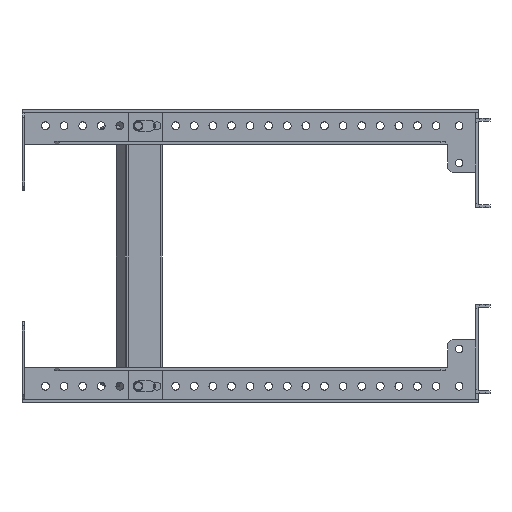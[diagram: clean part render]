
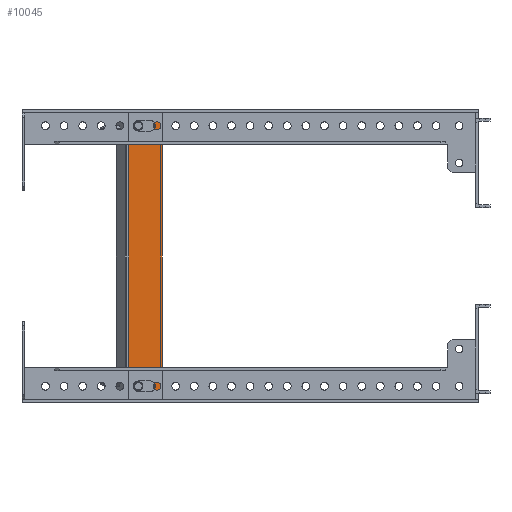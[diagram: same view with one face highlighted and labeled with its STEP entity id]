
A CAD part, front view. The second image highlights one B-rep face of the part: STEP entity #10045.
In plain terms, the highlighted planar face has unit normal (0, -1, 0).
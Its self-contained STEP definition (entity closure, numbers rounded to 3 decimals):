
#126 = AXIS2_PLACEMENT_3D ( 'NONE', #10724, #23433, #22801 ) ;
#191 = EDGE_CURVE ( 'NONE', #1956, #8687, #25291, .T. ) ;
#308 = DIRECTION ( 'NONE',  ( -1., 0., 0. ) ) ;
#430 = CARTESIAN_POINT ( 'NONE',  ( 1112.27, -253.815, 84. ) ) ;
#501 = ORIENTED_EDGE ( 'NONE', *, *, #26538, .F. ) ;
#509 = CARTESIAN_POINT ( 'NONE',  ( 1108.77, -253.815, -87.5 ) ) ;
#674 = CARTESIAN_POINT ( 'NONE',  ( 1128.272, -253.815, -97.5 ) ) ;
#1179 = VERTEX_POINT ( 'NONE', #17156 ) ;
#1416 = CARTESIAN_POINT ( 'NONE',  ( 1120.27, -253.815, -87.5 ) ) ;
#1956 = VERTEX_POINT ( 'NONE', #430 ) ;
#2004 = LINE ( 'NONE', #10616, #7252 ) ;
#2131 = EDGE_CURVE ( 'NONE', #19050, #3301, #4149, .T. ) ;
#2241 = AXIS2_PLACEMENT_3D ( 'NONE', #24133, #22053, #26634 ) ;
#2380 = VERTEX_POINT ( 'NONE', #674 ) ;
#2545 = VECTOR ( 'NONE', #5080, 1000. ) ;
#3301 = VERTEX_POINT ( 'NONE', #3691 ) ;
#3564 = ORIENTED_EDGE ( 'NONE', *, *, #24913, .F. ) ;
#3590 = DIRECTION ( 'NONE',  ( -1., 0., 0. ) ) ;
#3602 = CARTESIAN_POINT ( 'NONE',  ( 1128.272, -253.815, 97.5 ) ) ;
#3691 = CARTESIAN_POINT ( 'NONE',  ( 1112.27, -253.815, -91. ) ) ;
#3921 = VECTOR ( 'NONE', #14452, 1000. ) ;
#4098 = VERTEX_POINT ( 'NONE', #14169 ) ;
#4147 = ORIENTED_EDGE ( 'NONE', *, *, #18055, .F. ) ;
#4149 = CIRCLE ( 'NONE', #24039, 3.5 ) ;
#4202 = CARTESIAN_POINT ( 'NONE',  ( 1112.27, -253.815, 87.5 ) ) ;
#4675 = DIRECTION ( 'NONE',  ( 0., 0., 1. ) ) ;
#4949 = CARTESIAN_POINT ( 'NONE',  ( 1112.27, -253.815, 87.5 ) ) ;
#5080 = DIRECTION ( 'NONE',  ( 1., 0., 0. ) ) ;
#5239 = ORIENTED_EDGE ( 'NONE', *, *, #11927, .F. ) ;
#5491 = VERTEX_POINT ( 'NONE', #3602 ) ;
#5682 = CARTESIAN_POINT ( 'NONE',  ( 1112.27, -253.815, -84. ) ) ;
#6001 = CARTESIAN_POINT ( 'NONE',  ( 1105.77, -253.815, -97.5 ) ) ;
#6028 = CARTESIAN_POINT ( 'NONE',  ( 1112.27, -253.815, 84. ) ) ;
#6580 = LINE ( 'NONE', #19713, #8036 ) ;
#6707 = AXIS2_PLACEMENT_3D ( 'NONE', #4949, #13682, #20186 ) ;
#6709 = VERTEX_POINT ( 'NONE', #8030 ) ;
#6815 = EDGE_CURVE ( 'NONE', #21519, #6709, #13175, .T. ) ;
#6932 = CARTESIAN_POINT ( 'NONE',  ( 1120.27, -253.815, 91. ) ) ;
#6973 = EDGE_CURVE ( 'NONE', #8729, #21519, #15595, .T. ) ;
#7168 = ORIENTED_EDGE ( 'NONE', *, *, #17169, .F. ) ;
#7252 = VECTOR ( 'NONE', #12417, 1000. ) ;
#7660 = FACE_OUTER_BOUND ( 'NONE', #11004, .T. ) ;
#7667 = LINE ( 'NONE', #6001, #3921 ) ;
#7672 = EDGE_CURVE ( 'NONE', #8687, #8729, #9697, .T. ) ;
#7966 = LINE ( 'NONE', #6028, #20204 ) ;
#8030 = CARTESIAN_POINT ( 'NONE',  ( 1120.27, -253.815, 84. ) ) ;
#8036 = VECTOR ( 'NONE', #24004, 1000. ) ;
#8687 = VERTEX_POINT ( 'NONE', #26811 ) ;
#8729 = VERTEX_POINT ( 'NONE', #8764 ) ;
#8764 = CARTESIAN_POINT ( 'NONE',  ( 1112.27, -253.815, 91. ) ) ;
#9697 = CIRCLE ( 'NONE', #14979, 3.5 ) ;
#10041 = CARTESIAN_POINT ( 'NONE',  ( 1105.77, -253.815, -97.5 ) ) ;
#10045 = ADVANCED_FACE ( 'NONE', ( #7660, #17894, #13619 ), #20113, .F. ) ;
#10375 = CARTESIAN_POINT ( 'NONE',  ( 1112.27, -253.815, -84. ) ) ;
#10616 = CARTESIAN_POINT ( 'NONE',  ( 1150.113, -253.815, -97.5 ) ) ;
#10724 = CARTESIAN_POINT ( 'NONE',  ( 1112.27, -253.815, -87.5 ) ) ;
#10848 = DIRECTION ( 'NONE',  ( 0., 1., 0. ) ) ;
#11004 = EDGE_LOOP ( 'NONE', ( #4147, #7168, #27003, #22358 ) ) ;
#11174 = VERTEX_POINT ( 'NONE', #5682 ) ;
#11263 = ORIENTED_EDGE ( 'NONE', *, *, #6815, .T. ) ;
#11450 = VECTOR ( 'NONE', #4675, 1000. ) ;
#11927 = EDGE_CURVE ( 'NONE', #22896, #4098, #21408, .T. ) ;
#12225 = CARTESIAN_POINT ( 'NONE',  ( 1120.27, -253.815, -91. ) ) ;
#12367 = VECTOR ( 'NONE', #15315, 1000. ) ;
#12417 = DIRECTION ( 'NONE',  ( -1., 0., 0. ) ) ;
#12982 = ORIENTED_EDGE ( 'NONE', *, *, #191, .T. ) ;
#13024 = AXIS2_PLACEMENT_3D ( 'NONE', #1416, #27150, #22857 ) ;
#13175 = CIRCLE ( 'NONE', #13622, 3.5 ) ;
#13619 = FACE_BOUND ( 'NONE', #27129, .T. ) ;
#13622 = AXIS2_PLACEMENT_3D ( 'NONE', #14272, #22699, #26549 ) ;
#13682 = DIRECTION ( 'NONE',  ( 0., 1., 0. ) ) ;
#13837 = EDGE_CURVE ( 'NONE', #2380, #5491, #23914, .T. ) ;
#14169 = CARTESIAN_POINT ( 'NONE',  ( 1120.27, -253.815, -84. ) ) ;
#14272 = CARTESIAN_POINT ( 'NONE',  ( 1120.27, -253.815, 87.5 ) ) ;
#14452 = DIRECTION ( 'NONE',  ( 0., 0., 1. ) ) ;
#14979 = AXIS2_PLACEMENT_3D ( 'NONE', #4202, #10848, #308 ) ;
#15178 = CIRCLE ( 'NONE', #126, 3.5 ) ;
#15315 = DIRECTION ( 'NONE',  ( 1., 0., 0. ) ) ;
#15595 = LINE ( 'NONE', #24038, #2545 ) ;
#15729 = EDGE_CURVE ( 'NONE', #6709, #1956, #7966, .T. ) ;
#16222 = DIRECTION ( 'NONE',  ( -1., 0., 0. ) ) ;
#17156 = CARTESIAN_POINT ( 'NONE',  ( 1105.77, -253.815, 97.5 ) ) ;
#17169 = EDGE_CURVE ( 'NONE', #26250, #1179, #7667, .T. ) ;
#17543 = CARTESIAN_POINT ( 'NONE',  ( 1128.272, -253.815, -100.859 ) ) ;
#17894 = FACE_BOUND ( 'NONE', #22127, .T. ) ;
#18055 = EDGE_CURVE ( 'NONE', #1179, #5491, #21796, .T. ) ;
#18435 = CARTESIAN_POINT ( 'NONE',  ( 1112.27, -253.815, -87.5 ) ) ;
#18696 = DIRECTION ( 'NONE',  ( 0., -1., 0. ) ) ;
#18956 = ORIENTED_EDGE ( 'NONE', *, *, #22169, .F. ) ;
#19050 = VERTEX_POINT ( 'NONE', #509 ) ;
#19713 = CARTESIAN_POINT ( 'NONE',  ( 1112.27, -253.815, -91. ) ) ;
#20049 = ORIENTED_EDGE ( 'NONE', *, *, #2131, .F. ) ;
#20113 = PLANE ( 'NONE',  #2241 ) ;
#20186 = DIRECTION ( 'NONE',  ( -1., 0., 0. ) ) ;
#20204 = VECTOR ( 'NONE', #22909, 1000. ) ;
#21046 = VECTOR ( 'NONE', #3590, 1000. ) ;
#21408 = CIRCLE ( 'NONE', #13024, 3.5 ) ;
#21519 = VERTEX_POINT ( 'NONE', #6932 ) ;
#21796 = LINE ( 'NONE', #26246, #12367 ) ;
#22053 = DIRECTION ( 'NONE',  ( 0., 1., 0. ) ) ;
#22127 = EDGE_LOOP ( 'NONE', ( #18956, #20049, #3564, #501, #5239 ) ) ;
#22169 = EDGE_CURVE ( 'NONE', #3301, #22896, #6580, .T. ) ;
#22358 = ORIENTED_EDGE ( 'NONE', *, *, #13837, .T. ) ;
#22699 = DIRECTION ( 'NONE',  ( 0., 1., 0. ) ) ;
#22801 = DIRECTION ( 'NONE',  ( -1., 0., 0. ) ) ;
#22857 = DIRECTION ( 'NONE',  ( -1., 0., 0. ) ) ;
#22896 = VERTEX_POINT ( 'NONE', #12225 ) ;
#22909 = DIRECTION ( 'NONE',  ( -1., 0., 0. ) ) ;
#23433 = DIRECTION ( 'NONE',  ( 0., -1., 0. ) ) ;
#23914 = LINE ( 'NONE', #17543, #11450 ) ;
#24004 = DIRECTION ( 'NONE',  ( 1., 0., 0. ) ) ;
#24038 = CARTESIAN_POINT ( 'NONE',  ( 1112.27, -253.815, 91. ) ) ;
#24039 = AXIS2_PLACEMENT_3D ( 'NONE', #18435, #18696, #16222 ) ;
#24133 = CARTESIAN_POINT ( 'NONE',  ( 1150.737, -253.815, 0. ) ) ;
#24913 = EDGE_CURVE ( 'NONE', #11174, #19050, #15178, .T. ) ;
#25291 = CIRCLE ( 'NONE', #6707, 3.5 ) ;
#25915 = EDGE_CURVE ( 'NONE', #2380, #26250, #2004, .T. ) ;
#26155 = LINE ( 'NONE', #10375, #21046 ) ;
#26246 = CARTESIAN_POINT ( 'NONE',  ( 1105.77, -253.815, 97.5 ) ) ;
#26250 = VERTEX_POINT ( 'NONE', #10041 ) ;
#26538 = EDGE_CURVE ( 'NONE', #4098, #11174, #26155, .T. ) ;
#26549 = DIRECTION ( 'NONE',  ( -1., 0., 0. ) ) ;
#26634 = DIRECTION ( 'NONE',  ( 1., 0., 0. ) ) ;
#26741 = ORIENTED_EDGE ( 'NONE', *, *, #15729, .T. ) ;
#26811 = CARTESIAN_POINT ( 'NONE',  ( 1108.77, -253.815, 87.5 ) ) ;
#26979 = ORIENTED_EDGE ( 'NONE', *, *, #6973, .T. ) ;
#27003 = ORIENTED_EDGE ( 'NONE', *, *, #25915, .F. ) ;
#27129 = EDGE_LOOP ( 'NONE', ( #12982, #27424, #26979, #11263, #26741 ) ) ;
#27150 = DIRECTION ( 'NONE',  ( 0., -1., 0. ) ) ;
#27424 = ORIENTED_EDGE ( 'NONE', *, *, #7672, .T. ) ;
